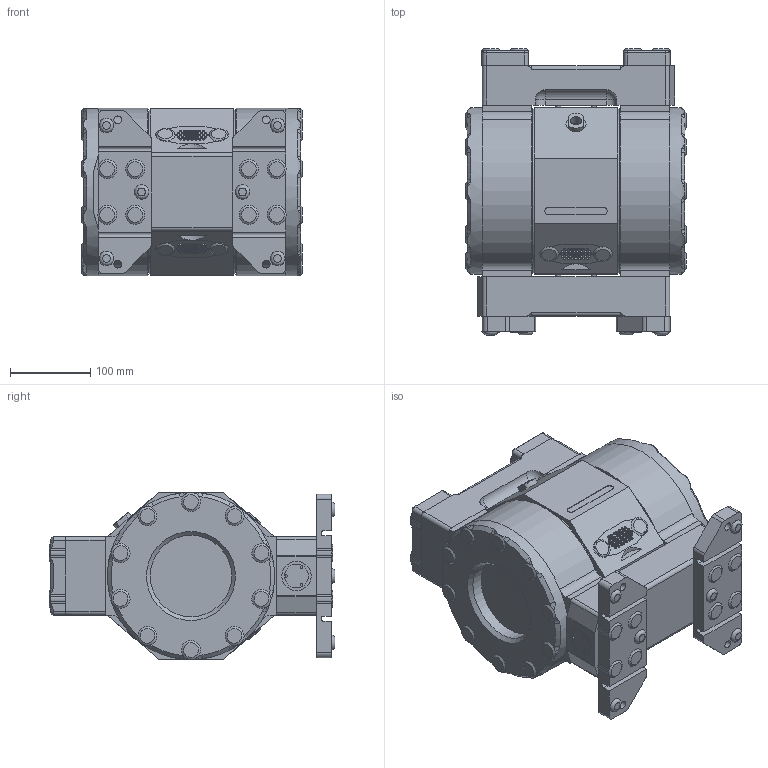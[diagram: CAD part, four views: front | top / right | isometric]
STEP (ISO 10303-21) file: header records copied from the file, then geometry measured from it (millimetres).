
FILE_DESCRIPTION (( 'STEP AP214' ), '1' );
FILE_NAME ('PSD16_solid_model.STEP', '2013-05-16T22:04:53', ( '' ), ( '' ), 'SwSTEP 2.0', 'SolidWorks 2012', '' );
FILE_SCHEMA (( 'AUTOMOTIVE_DESIGN' ));
Length unit declared in the file: inch
Products named in the file (1): PSD16_solid_model
Bounding box: 275.72 x 356.92 x 208.79 mm (x, y, z)
Volume: 12253751.8 mm3; surface area: 506847.1 mm2
Topology: 1 solids, 1 shells, 800 faces, 1890 edges, 1257 vertices
Faces by surface type: plane 357, cylinder 239, cone 174, torus 20, sphere 6, bspline 4
Full cylindrical faces by diameter (mm): 3.175 x78, 3.251 x6, 6.35 x4, 9.906 x10, 11.125 x2, 13.716 x1, 17.145 x24, 33.194 x2, 101.6 x2, 174.696 x2, 205.232 x2, 208.788 x2
Entity records: 28174 total; most frequent: CARTESIAN_POINT 4856, DIRECTION 3794, ORIENTED_EDGE 3122, AXIS2_PLACEMENT_3D 1587, EDGE_CURVE 1561, EDGE_LOOP 1184, VERTEX_POINT 1127, FACE_OUTER_BOUND 951
